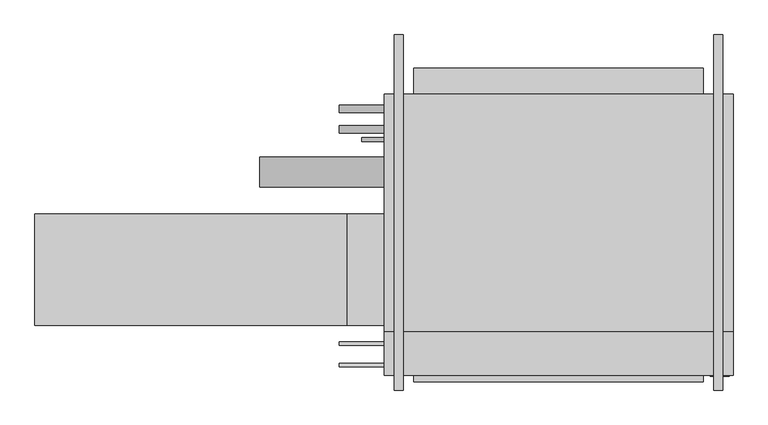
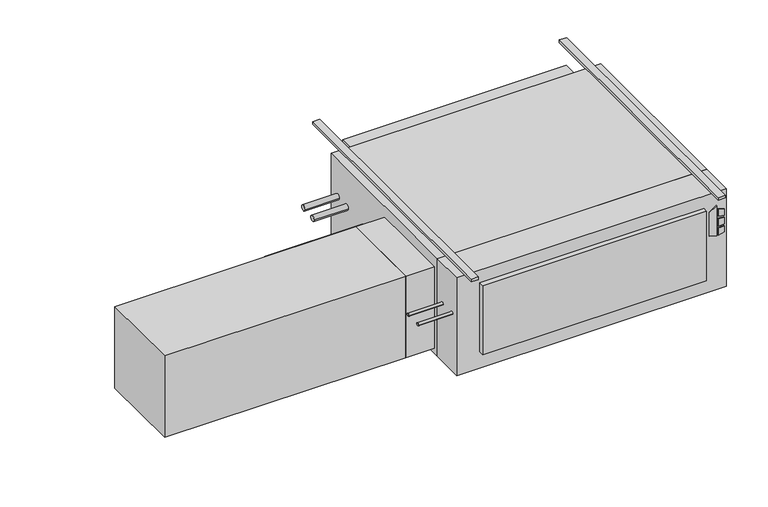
"""IFC4 building model written with IfcOpenShell, lengths in millimetres: proxy geometry."""

import ifcopenshell
import ifcopenshell.guid

model = None  # the IFC model being written
_history = None  # IfcOwnerHistory: only IFC2X3 demands one
_inside = {}  # id of a spatial element -> (the spatial element, [elements in it])
_under = {}  # id of a project, library or spatial element -> (it, [spatial elements below it])
_declared = {}  # id of a project -> (the project, [libraries it declares])
_typed = {}  # id of a type object -> (the type object, [elements of that type])
_made_of = {}  # id of a material, layer set ... -> (it, [elements and type objects made of it])


def new_model(schema):
    """Start an empty IFC model of exactly this schema.

    Asked for "IFC4X3", IfcOpenShell would pick the latest addendum, in which some entities
    have other attributes; the version numbers below select the first issue.
    IFC2X3 requires an IfcOwnerHistory on every rooted entity: one is made here for all.
    """
    global model, _history
    if schema == "IFC4X3":
        model = ifcopenshell.file(schema_version=(4, 3, 0, 0))
    else:
        model = ifcopenshell.file(schema=schema)
    _inside.clear()
    _under.clear()
    _declared.clear()
    _typed.clear()
    _made_of.clear()
    _history = None
    if model.schema == "IFC2X3":
        org = make("IfcOrganization", Name="unknown")
        user = make(
            "IfcPersonAndOrganization",
            ThePerson=make("IfcPerson", FamilyName="unknown"),
            TheOrganization=org,
        )
        app = make(
            "IfcApplication",
            ApplicationDeveloper=org,
            Version="unknown",
            ApplicationFullName="unknown",
            ApplicationIdentifier="unknown",
        )
        _history = make(
            "IfcOwnerHistory",
            OwningUser=user,
            OwningApplication=app,
            ChangeAction="ADDED",
            CreationDate=0,
        )
    return model


def make(cls, **values):
    """One entity of the class cls with the attributes given. An attribute that is None is left unset."""
    return model.create_entity(
        cls, **{name: value for name, value in values.items() if value is not None}
    )


def rooted(cls, **values):
    """An entity with a GlobalId (a new one), such as an element, a storey or a relation."""
    return make(cls, GlobalId=ifcopenshell.guid.new(), OwnerHistory=_history, **values)


def si_unit(unit_type, name, prefix=None):
    """IfcSIUnit, for example si_unit("LENGTHUNIT", "METRE", prefix="MILLI")."""
    return make("IfcSIUnit", UnitType=unit_type, Prefix=prefix, Name=name)


def assignment(units):
    """IfcUnitAssignment: the units of a project."""
    return None if units is None else make("IfcUnitAssignment", Units=units)


def point(xyz):
    """IfcCartesianPoint."""
    return None if xyz is None else make("IfcCartesianPoint", Coordinates=xyz)


def direction(xyz):
    """IfcDirection."""
    return None if xyz is None else make("IfcDirection", DirectionRatios=xyz)


def frame(location, z_axis=None, x_axis=None):
    """IfcAxis2Placement3D, a coordinate frame: its origin and axes. An axis left out is left unset."""
    return make(
        "IfcAxis2Placement3D",
        Location=point(location),
        Axis=direction(z_axis),
        RefDirection=direction(x_axis),
    )


def frame_2d(location, x_axis=None):
    """IfcAxis2Placement2D, a coordinate frame in the plane: its origin and x axis."""
    return make(
        "IfcAxis2Placement2D", Location=point(location), RefDirection=direction(x_axis)
    )


def origin():
    """The frame at (0, 0, 0) with its axes left unset."""
    return frame((0.0, 0.0, 0.0))


def origin_with_axes():
    """The frame at (0, 0, 0) with the z axis (0, 0, 1) and the x axis (1, 0, 0) written out."""
    return frame((0.0, 0.0, 0.0), z_axis=(0.0, 0.0, 1.0), x_axis=(1.0, 0.0, 0.0))


def place(relative_to, where):
    """IfcLocalPlacement: puts the frame where relative to a parent placement (None: the world)."""
    return make(
        "IfcLocalPlacement", PlacementRelTo=relative_to, RelativePlacement=where
    )


def context(
    kind, dimensions, precision=None, world=None, true_north=None, identifier=None
):
    """IfcGeometricRepresentationContext, for example the 3D "Model" context."""
    return make(
        "IfcGeometricRepresentationContext",
        ContextIdentifier=identifier,
        ContextType=kind,
        CoordinateSpaceDimension=dimensions,
        Precision=precision,
        WorldCoordinateSystem=world,
        TrueNorth=true_north,
    )


def project(units=None, contexts=None):
    """IfcProject with its units and contexts."""
    return rooted(
        "IfcProject",
        Name="project",
        RepresentationContexts=contexts,
        UnitsInContext=assignment(units),
    )


def spatial(cls, under=None, at=None, **own):
    """A site, building, storey or space (cls), placed at a placement, below another one or the project."""
    s = rooted(cls, ObjectPlacement=at, **own)
    if under is not None:
        _under.setdefault(under.id(), (under, []))[1].append(s)
    return s


def polyline(points):
    """IfcPolyline through the points."""
    return make("IfcPolyline", Points=[point(p) for p in points])


def circle_curve(where, radius):
    """IfcCircle in the frame where."""
    return make("IfcCircle", Position=where, Radius=radius)


def trimmed(basis, trim1, trim2, sense, master):
    """IfcTrimmedCurve: the piece of a basis curve between two trims."""
    return make(
        "IfcTrimmedCurve",
        BasisCurve=basis,
        Trim1=trim1,
        Trim2=trim2,
        SenseAgreement=sense,
        MasterRepresentation=master,
    )


def segment(curve, same_sense, transition):
    """IfcCompositeCurveSegment."""
    return make(
        "IfcCompositeCurveSegment",
        Transition=transition,
        SameSense=same_sense,
        ParentCurve=curve,
    )


def composite_curve(segments, self_intersect=None):
    """IfcCompositeCurve: segments joined end to end."""
    return make("IfcCompositeCurve", Segments=segments, SelfIntersect=self_intersect)


def outline(outer, holes=None, kind="AREA"):
    """IfcArbitraryClosedProfileDef: a profile drawn as a closed curve; with holes, ...WithVoids."""
    if holes is None:
        return make("IfcArbitraryClosedProfileDef", ProfileType=kind, OuterCurve=outer)
    return make(
        "IfcArbitraryProfileDefWithVoids",
        ProfileType=kind,
        OuterCurve=outer,
        InnerCurves=holes,
    )


def extrude(swept, where, along, depth):
    """IfcExtrudedAreaSolid: the profile swept, set in the frame where, extruded along a direction by depth."""
    return make(
        "IfcExtrudedAreaSolid",
        SweptArea=swept,
        Position=where,
        ExtrudedDirection=direction(along),
        Depth=depth,
    )


def shape(context_of_items, identifier, shape_type, items):
    """IfcShapeRepresentation: the items that make up one representation, for example the "Body"."""
    return make(
        "IfcShapeRepresentation",
        ContextOfItems=context_of_items,
        RepresentationIdentifier=identifier,
        RepresentationType=shape_type,
        Items=items,
    )


def source(mapping_origin, context_of_items, identifier, shape_type, items):
    """IfcRepresentationMap: a shape defined once, which mapped items show again and again."""
    return make(
        "IfcRepresentationMap",
        MappingOrigin=mapping_origin,
        MappedRepresentation=shape(context_of_items, identifier, shape_type, items),
    )


def transform(
    local_origin,
    x_axis=None,
    y_axis=None,
    z_axis=None,
    scale=None,
    scale2=None,
    scale3=None,
    uniform=True,
):
    """IfcCartesianTransformationOperator3D, or its non-uniform kind. x_axis, y_axis, z_axis: its Axis1, 2, 3."""
    if uniform:
        return make(
            "IfcCartesianTransformationOperator3D",
            Axis1=direction(x_axis),
            Axis2=direction(y_axis),
            LocalOrigin=point(local_origin),
            Scale=scale,
            Axis3=direction(z_axis),
        )
    return make(
        "IfcCartesianTransformationOperator3DnonUniform",
        Axis1=direction(x_axis),
        Axis2=direction(y_axis),
        LocalOrigin=point(local_origin),
        Scale=scale,
        Axis3=direction(z_axis),
        Scale2=scale2,
        Scale3=scale3,
    )


def mapped(mapping_source, mapping_target):
    """IfcMappedItem: shows the shape of a source again, moved by a transform."""
    return make(
        "IfcMappedItem", MappingSource=mapping_source, MappingTarget=mapping_target
    )


def made_of(thing, what):
    """Note that an element or type object is made of a material, layer set ...; save() writes the relation."""
    if what is not None:
        _made_of.setdefault(what.id(), (what, []))[1].append(thing)
    return thing


def element(
    cls,
    number,
    at=None,
    inside=None,
    cuts=None,
    type_object=None,
    material=None,
    context=None,
    identifier="Body",
    shape_type=None,
    held_by="IfcProductDefinitionShape",
    body=None,
    shapes=None,
    **own,
):
    """One element of the class cls, such as IfcWall. Its Tag is "e" and its number.

    at: its placement. inside: the storey or other place that contains it. cuts: it is an
    opening in that element (IfcRelVoidsElement). A single representation is given by context,
    identifier, shape_type and body (its items); several are given by shapes. held_by: the class
    of the entity that holds the representations. save() writes the other relations.
    """
    e = rooted(cls, Tag="e%d" % number, ObjectPlacement=at, **own)
    if body is not None:
        shapes = [shape(context, identifier, shape_type, body)]
    if shapes is not None:
        e.Representation = make(held_by, Representations=shapes)
    if inside is not None:
        _inside.setdefault(inside.id(), (inside, []))[1].append(e)
    if cuts is not None:
        rooted(
            "IfcRelVoidsElement", RelatingBuildingElement=cuts, RelatedOpeningElement=e
        )
    if type_object is not None:
        _typed.setdefault(type_object.id(), (type_object, []))[1].append(e)
    return made_of(e, material)


def aggregate(whole, parts):
    """IfcRelAggregates: a whole, such as a stair, and the parts it consists of."""
    return rooted("IfcRelAggregates", RelatingObject=whole, RelatedObjects=parts)


def save(model, path):
    """Write the relations noted so far, then the file.

    IfcRelAggregates (storeys below a building ...), IfcRelContainedInSpatialStructure (elements
    in a storey), IfcRelDefinesByType, IfcRelAssociatesMaterial and IfcRelDeclares: one each for
    every whole, place, type object, material and project.
    """
    for whole, parts in _under.values():
        aggregate(whole, parts)
    for where, things in _inside.values():
        rooted(
            "IfcRelContainedInSpatialStructure",
            RelatedElements=things,
            RelatingStructure=where,
        )
    for kind, things in _typed.values():
        rooted("IfcRelDefinesByType", RelatedObjects=things, RelatingType=kind)
    for what, things in _made_of.values():
        rooted("IfcRelAssociatesMaterial", RelatedObjects=things, RelatingMaterial=what)
    for by, libraries in _declared.values():
        rooted("IfcRelDeclares", RelatingContext=by, RelatedDefinitions=libraries)
    model.write(path)


def mechanical_equipment_fa6ce069(model_context):
    return source(origin(), model_context, "Body", "SweptSolid", [
        extrude(outline(polyline([(-193.2519297, 671.5868862), (-203.2, 703.7602728), (-61.0290756, 703.7602728), (-84.0510817, 671.5868862), (-193.2519297, 671.5868862)])), frame((0.0, -797.052, 0.0), z_axis=(0.0, 1.0, 0.0), x_axis=(0.0, 0.0, 1.0)), (0.0, 0.0, 1.0), 3.175),
        extrude(outline(polyline([(-114.2526443, 710.5186058), (-117.4550368, 736.6), (-88.2261958, 736.6), (-80.1617807, 710.5186058), (-114.2526443, 710.5186058)])), frame((0.0, -797.052, 0.0), z_axis=(0.0, 1.0, 0.0), x_axis=(0.0, 0.0, 1.0)), (0.0, 0.0, 1.0), 3.175),
        extrude(outline(polyline([(-166.1161712, 736.6), (-169.7816721, 710.5186058), (-203.2, 710.5186058), (-194.5657628, 736.6), (-166.1161712, 736.6)])), frame((0.0, -797.052, 0.0), z_axis=(0.0, 1.0, 0.0), x_axis=(0.0, 0.0, 1.0)), (0.0, 0.0, 1.0), 3.175),
        extrude(outline(polyline([(-126.8010097, 736.6), (-124.5191834, 710.5186058), (-160.4567319, 710.5186058), (-157.7154669, 736.6), (-126.8010097, 736.6)])), frame((0.0, -797.052, 0.0), z_axis=(0.0, 1.0, 0.0), x_axis=(0.0, 0.0, 1.0)), (0.0, 0.0, 1.0), 3.175),
        extrude(outline(polyline([(749.3, -793.877), (-444.5, -793.877), (-444.5, -644.525), (749.3, -644.525), (749.3, -793.877)])), frame((0.0, 0.0, -457.2), z_axis=(0.0, 0.0, 1.0), x_axis=(1.0, 0.0, 0.0)), (0.0, 0.0, 1.0), 457.2),
        extrude(outline(polyline([(647.7, -816.229), (-342.9, -816.229), (-342.9, -793.877), (647.7, -793.877), (647.7, -816.229)])), frame((0.0, 0.0, -381.0), z_axis=(0.0, 0.0, 1.0), x_axis=(1.0, 0.0, 0.0)), (0.0, 0.0, 1.0), 323.85),
        extrude(outline(polyline([(-1638.3, -622.3), (-1638.3, -241.3), (-571.5, -241.3), (-571.5, -622.3), (-1638.3, -622.3)])), frame((0.0, 0.0, -431.8), z_axis=(0.0, 0.0, 1.0), x_axis=(1.0, 0.0, 0.0)), (0.0, 0.0, 1.0), 381.0),
        extrude(outline(polyline([(-444.5, -241.3), (-444.5, -622.3), (-571.5, -622.3), (-571.5, -241.3), (-444.5, -241.3)])), frame((0.0, 0.0, -431.8), z_axis=(0.0, 0.0, 1.0), x_axis=(1.0, 0.0, 0.0)), (0.0, 0.0, 1.0), 381.0),
        extrude(outline(composite_curve([segment(trimmed(circle_curve(frame_2d((-758.825, -184.15)), 6.35), [point((-765.175, -184.15))], [point((-752.475, -184.15))], False, "CARTESIAN"), True, "CONTINUOUS"), segment(trimmed(circle_curve(frame_2d((-758.825, -184.15)), 6.35), [point((-752.475, -184.15))], [point((-765.175, -184.15))], False, "CARTESIAN"), True, "CONTINUOUS")], self_intersect=False)), frame((-596.9, 0.0, 0.0), z_axis=(1.0, 0.0, 0.0), x_axis=(0.0, 1.0, 0.0)), (0.0, 0.0, 1.0), 152.4),
        extrude(outline(composite_curve([segment(trimmed(circle_curve(frame_2d((-685.8, -184.15)), 6.35), [point((-692.15, -184.15))], [point((-679.45, -184.15))], False, "CARTESIAN"), True, "CONTINUOUS"), segment(trimmed(circle_curve(frame_2d((-685.8, -184.15)), 6.35), [point((-679.45, -184.15))], [point((-692.15, -184.15))], False, "CARTESIAN"), True, "CONTINUOUS")], self_intersect=False)), frame((-596.9, 0.0, 0.0), z_axis=(1.0, 0.0, 0.0), x_axis=(0.0, 1.0, 0.0)), (0.0, 0.0, 1.0), 152.4),
        extrude(outline(composite_curve([segment(trimmed(circle_curve(frame_2d((-98.4896516, -228.6360165)), 50.8), [point((-149.2896516, -228.6360165))], [point((-47.6896516, -228.6360165))], False, "CARTESIAN"), True, "CONTINUOUS"), segment(trimmed(circle_curve(frame_2d((-98.4896516, -228.6360165)), 50.8), [point((-47.6896516, -228.6360165))], [point((-149.2896516, -228.6360165))], False, "CARTESIAN"), True, "CONTINUOUS")], self_intersect=False)), frame((-869.95, 0.0, 0.0), z_axis=(1.0, 0.0, 0.0), x_axis=(0.0, 1.0, 0.0)), (0.0, 0.0, 1.0), 425.45),
        extrude(outline(composite_curve([segment(trimmed(circle_curve(frame_2d((47.625, -177.8)), 12.7), [point((34.925, -177.8))], [point((60.325, -177.8))], False, "CARTESIAN"), True, "CONTINUOUS"), segment(trimmed(circle_curve(frame_2d((47.625, -177.8)), 12.7), [point((60.325, -177.8))], [point((34.925, -177.8))], False, "CARTESIAN"), True, "CONTINUOUS")], self_intersect=False)), frame((-596.9, 0.0, 0.0), z_axis=(1.0, 0.0, 0.0), x_axis=(0.0, 1.0, 0.0)), (0.0, 0.0, 1.0), 152.4),
        extrude(outline(composite_curve([segment(trimmed(circle_curve(frame_2d((117.475, -171.45)), 12.7), [point((104.775, -171.45))], [point((130.175, -171.45))], False, "CARTESIAN"), True, "CONTINUOUS"), segment(trimmed(circle_curve(frame_2d((117.475, -171.45)), 12.7), [point((130.175, -171.45))], [point((104.775, -171.45))], False, "CARTESIAN"), True, "CONTINUOUS")], self_intersect=False)), frame((-596.9, 0.0, 0.0), z_axis=(1.0, 0.0, 0.0), x_axis=(0.0, 1.0, 0.0)), (0.0, 0.0, 1.0), 152.4),
        extrude(outline(composite_curve([segment(trimmed(circle_curve(frame_2d((12.7, -409.575)), 6.35), [point((6.35, -409.575))], [point((19.05, -409.575))], False, "CARTESIAN"), True, "CONTINUOUS"), segment(trimmed(circle_curve(frame_2d((12.7, -409.575)), 6.35), [point((19.05, -409.575))], [point((6.35, -409.575))], False, "CARTESIAN"), True, "CONTINUOUS")], self_intersect=False)), frame((-520.7, 0.0, 0.0), z_axis=(1.0, 0.0, 0.0), x_axis=(0.0, 1.0, 0.0)), (0.0, 0.0, 1.0), 76.2),
        extrude(outline(polyline([(749.3, 168.275), (749.3, -644.525), (-444.5, -644.525), (-444.5, 168.275), (749.3, 168.275)])), frame((0.0, 0.0, -457.2), z_axis=(0.0, 0.0, 1.0), x_axis=(1.0, 0.0, 0.0)), (0.0, 0.0, 1.0), 457.2),
        extrude(outline(polyline([(-342.9, 257.175), (647.7, 257.175), (647.7, 168.275), (-342.9, 168.275), (-342.9, 257.175)])), frame((0.0, 0.0, -381.0), z_axis=(0.0, 0.0, 1.0), x_axis=(1.0, 0.0, 0.0)), (0.0, 0.0, 1.0), 355.6),
        extrude(outline(polyline([(-377.825, 371.475), (-377.825, -844.677), (-409.575, -844.677), (-409.575, 371.475), (-377.825, 371.475)])), origin_with_axes(), (0.0, 0.0, 1.0), 12.7),
        extrude(outline(polyline([(714.375, 371.475), (714.375, -844.677), (682.625, -844.677), (682.625, 371.475), (714.375, 371.475)])), origin_with_axes(), (0.0, 0.0, 1.0), 12.7),
    ])


if __name__ == "__main__":
    model = new_model("IFC4")
    model_context = context("Model", 3, world=origin())
    ifc_project = project(units=[si_unit("LENGTHUNIT", "METRE", prefix="MILLI")], contexts=[model_context])
    site = spatial("IfcSite", under=ifc_project)
    building = spatial("IfcBuilding", under=site)
    placement = place(None, origin())
    mechanical_equipment_shape = mechanical_equipment_fa6ce069(model_context)
    element("IfcBuildingElementProxy", 1, Name="High_Capacity_Horizontal_Cabinet_Fan_Coil_Unit_-_HTY_-_IEC_-_4-Pipe_WO-Attenuator_LH Side_2022 : Size 16 - 115v/60Hz/1Ph - 4/1 Coil - 4\" AirIn", ObjectType="High_Capacity_Horizontal_Cabinet_Fan_Coil_Unit_-_HTY_-_IEC_-_4-Pipe_WO-Attenuator_LH Side_2022 : Size 16 - 115v/60Hz/1Ph - 4/1 Coil - 4\" AirIn", at=placement, inside=building, context=model_context, shape_type="MappedRepresentation", body=[
        mapped(mechanical_equipment_shape, transform((0.0, 0.0, 0.0), x_axis=(1.0, 0.0, 0.0), y_axis=(0.0, 1.0, 0.0), z_axis=(0.0, 0.0, 1.0))),
    ])
    save(model, "model.ifc")
